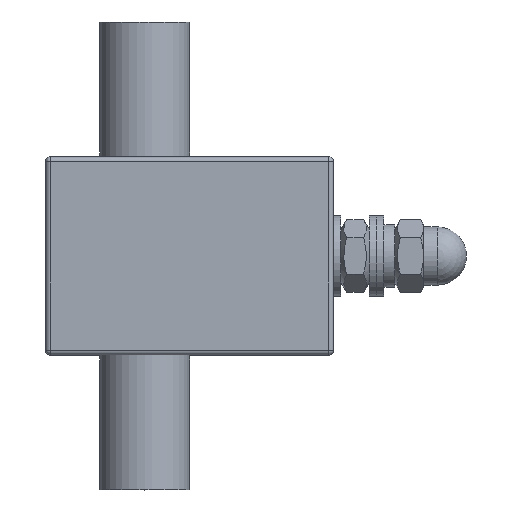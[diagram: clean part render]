
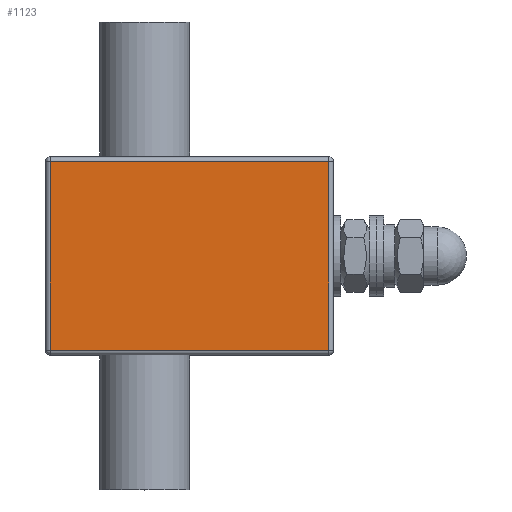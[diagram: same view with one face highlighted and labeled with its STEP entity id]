
A CAD part, top view. The second image highlights one B-rep face of the part: STEP entity #1123.
In plain terms, the highlighted planar face has unit normal (0, 0, 1).
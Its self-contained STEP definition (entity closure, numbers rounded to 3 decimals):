
#99=LINE('',#1823,#139);
#103=LINE('',#1836,#143);
#105=LINE('',#1839,#145);
#111=LINE('',#1848,#151);
#139=VECTOR('',#1458,21.);
#143=VECTOR('',#1474,31.);
#145=VECTOR('',#1478,21.);
#151=VECTOR('',#1490,31.);
#187=PLANE('',#1247);
#309=FACE_OUTER_BOUND('',#403,.T.);
#403=EDGE_LOOP('',(#889,#890,#891,#892));
#571=VERTEX_POINT('',#1780);
#577=VERTEX_POINT('',#1797);
#583=VERTEX_POINT('',#1814);
#586=VERTEX_POINT('',#1827);
#687=EDGE_CURVE('',#571,#583,#99,.T.);
#694=EDGE_CURVE('',#583,#586,#103,.T.);
#696=EDGE_CURVE('',#586,#577,#105,.T.);
#702=EDGE_CURVE('',#577,#571,#111,.T.);
#889=ORIENTED_EDGE('',*,*,#687,.F.);
#890=ORIENTED_EDGE('',*,*,#702,.F.);
#891=ORIENTED_EDGE('',*,*,#696,.F.);
#892=ORIENTED_EDGE('',*,*,#694,.F.);
#1123=ADVANCED_FACE('',(#309),#187,.T.);
#1247=AXIS2_PLACEMENT_3D('',#1858,#1504,#1505);
#1458=DIRECTION('',(0.,1.,0.));
#1474=DIRECTION('',(1.,0.,0.));
#1478=DIRECTION('',(0.,-1.,0.));
#1490=DIRECTION('',(-1.,0.,0.));
#1504=DIRECTION('center_axis',(0.,0.,1.));
#1505=DIRECTION('ref_axis',(1.,0.,0.));
#1780=CARTESIAN_POINT('',(-15.5,-10.5,8.5));
#1797=CARTESIAN_POINT('',(15.5,-10.5,8.5));
#1814=CARTESIAN_POINT('',(-15.5,10.5,8.5));
#1823=CARTESIAN_POINT('',(-15.5,5.5,8.5));
#1827=CARTESIAN_POINT('',(15.5,10.5,8.5));
#1836=CARTESIAN_POINT('',(8.,10.5,8.5));
#1839=CARTESIAN_POINT('',(15.5,-5.5,8.5));
#1848=CARTESIAN_POINT('',(-8.,-10.5,8.5));
#1858=CARTESIAN_POINT('Origin',(0.,0.,8.5));
